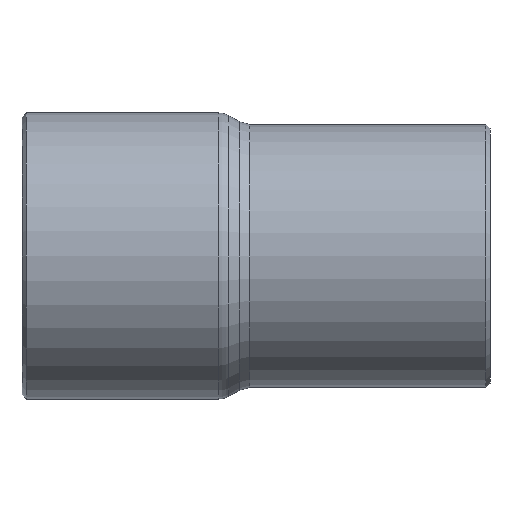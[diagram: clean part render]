
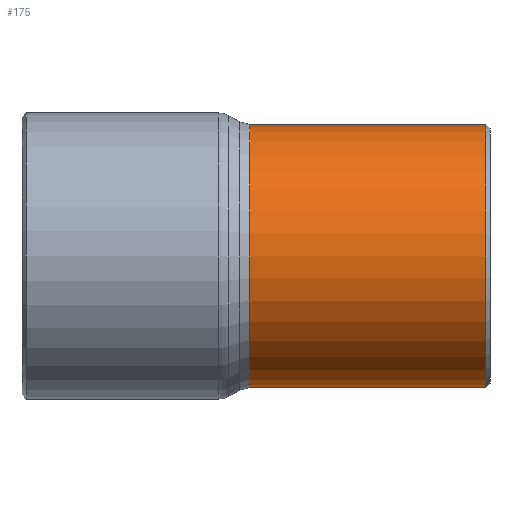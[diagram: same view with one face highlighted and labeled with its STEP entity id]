
A CAD part, front view. The second image highlights one B-rep face of the part: STEP entity #175.
In plain terms, the highlighted cylindrical face has radius 6.35 mm (diameter 12.7 mm), a full revolution.
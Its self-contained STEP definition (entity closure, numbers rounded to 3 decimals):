
#141=CARTESIAN_POINT('',(11.4,6.35,0.));
#142=VERTEX_POINT('',#141);
#143=CARTESIAN_POINT('',(11.4,0.0,0.0));
#144=DIRECTION('',(1.0,0.0,0.0));
#145=DIRECTION('',(0.0,-1.0,0.0));
#146=AXIS2_PLACEMENT_3D('',#143,#144,#145);
#147=CIRCLE('',#146,6.35);
#148=EDGE_CURVE('',#142,#142,#147,.T.);
#156=CARTESIAN_POINT('',(5.8,0.0,0.0));
#157=DIRECTION('',(1.0,0.0,0.0));
#158=DIRECTION('',(0.0,1.0,0.0));
#159=AXIS2_PLACEMENT_3D('',#156,#157,#158);
#160=CYLINDRICAL_SURFACE('',#159,6.35);
#161=CARTESIAN_POINT('',(0.,6.35,0.0));
#162=VERTEX_POINT('',#161);
#163=CARTESIAN_POINT('',(0.0,0.0,0.0));
#164=DIRECTION('',(1.0,0.0,0.0));
#165=DIRECTION('',(0.0,1.0,0.0));
#166=AXIS2_PLACEMENT_3D('',#163,#164,#165);
#167=CIRCLE('',#166,6.35);
#168=EDGE_CURVE('',#162,#162,#167,.T.);
#169=ORIENTED_EDGE('',*,*,#168,.T.);
#170=EDGE_LOOP('',(#169));
#171=FACE_OUTER_BOUND('',#170,.T.);
#172=ORIENTED_EDGE('',*,*,#148,.F.);
#173=EDGE_LOOP('',(#172));
#174=FACE_BOUND('',#173,.T.);
#175=ADVANCED_FACE('',(#171,#174),#160,.T.);
